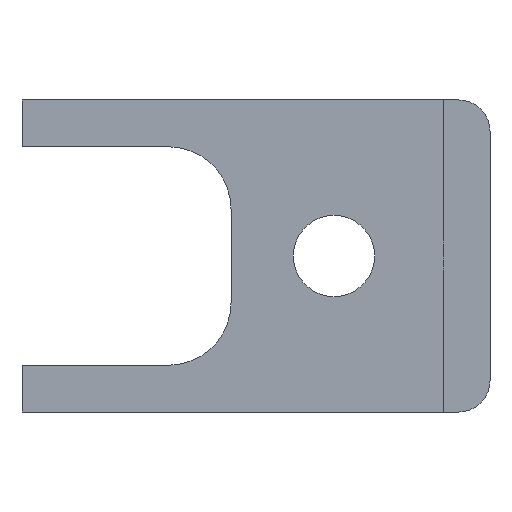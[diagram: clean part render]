
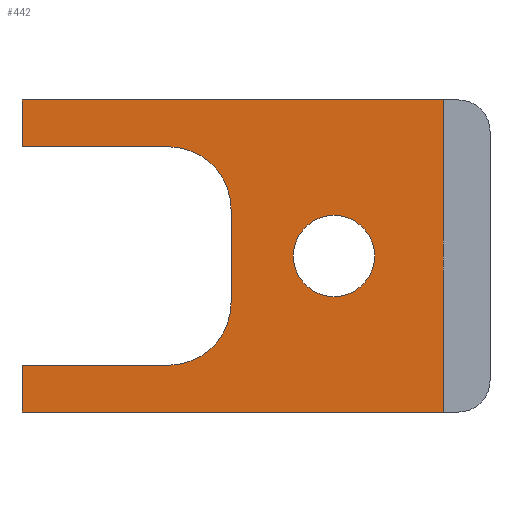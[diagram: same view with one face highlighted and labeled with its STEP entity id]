
A CAD part, front view. The second image highlights one B-rep face of the part: STEP entity #442.
In plain terms, the highlighted planar face has unit normal (0, -1, 0).
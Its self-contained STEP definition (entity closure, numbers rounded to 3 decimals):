
#13 = CARTESIAN_POINT ( 'NONE',  ( 11.3, 1.5, 5. ) ) ;
#20 = CARTESIAN_POINT ( 'NONE',  ( 0., 1.5, 10. ) ) ;
#24 = EDGE_CURVE ( 'NONE', #462, #469, #688, .T. ) ;
#29 = CARTESIAN_POINT ( 'NONE',  ( 4.7, 1.5, 3.5 ) ) ;
#43 = VECTOR ( 'NONE', #368, 1000. ) ;
#45 = LINE ( 'NONE', #95, #43 ) ;
#47 = ORIENTED_EDGE ( 'NONE', *, *, #575, .T. ) ;
#48 = CARTESIAN_POINT ( 'NONE',  ( 13.5, 1.5, 10. ) ) ;
#77 = DIRECTION ( 'NONE',  ( 1., 0., 0. ) ) ;
#81 = DIRECTION ( 'NONE',  ( 0., 0., -1. ) ) ;
#89 = ORIENTED_EDGE ( 'NONE', *, *, #200, .T. ) ;
#94 = VERTEX_POINT ( 'NONE', #641 ) ;
#95 = CARTESIAN_POINT ( 'NONE',  ( 13.5, 1.5, 10. ) ) ;
#96 = VECTOR ( 'NONE', #131, 1000. ) ;
#107 = VERTEX_POINT ( 'NONE', #645 ) ;
#120 = CARTESIAN_POINT ( 'NONE',  ( 0., 1.5, 0. ) ) ;
#129 = DIRECTION ( 'NONE',  ( -1., 0., 0. ) ) ;
#131 = DIRECTION ( 'NONE',  ( 0., 0., -1. ) ) ;
#139 = CIRCLE ( 'NONE', #547, 2. ) ;
#156 = VECTOR ( 'NONE', #324, 1000. ) ;
#164 = VECTOR ( 'NONE', #461, 1000. ) ;
#179 = CARTESIAN_POINT ( 'NONE',  ( 0., 1.5, 8.5 ) ) ;
#181 = DIRECTION ( 'NONE',  ( -1., 0., 0. ) ) ;
#185 = EDGE_CURVE ( 'NONE', #249, #591, #45, .T. ) ;
#187 = EDGE_LOOP ( 'NONE', ( #362, #317 ) ) ;
#190 = CARTESIAN_POINT ( 'NONE',  ( 13.5, 1.5, 0. ) ) ;
#198 = ORIENTED_EDGE ( 'NONE', *, *, #185, .F. ) ;
#199 = LINE ( 'NONE', #490, #156 ) ;
#200 = EDGE_CURVE ( 'NONE', #329, #637, #199, .T. ) ;
#216 = CARTESIAN_POINT ( 'NONE',  ( 0., 1.5, 10. ) ) ;
#229 = CARTESIAN_POINT ( 'NONE',  ( 0., 1.5, 10. ) ) ;
#231 = CIRCLE ( 'NONE', #609, 2. ) ;
#234 = CIRCLE ( 'NONE', #705, 1.3 ) ;
#249 = VERTEX_POINT ( 'NONE', #48 ) ;
#272 = EDGE_CURVE ( 'NONE', #562, #94, #668, .T. ) ;
#289 = CARTESIAN_POINT ( 'NONE',  ( 6.7, 1.5, 10. ) ) ;
#295 = CARTESIAN_POINT ( 'NONE',  ( 6.7, 1.5, 6.5 ) ) ;
#298 = LINE ( 'NONE', #289, #379 ) ;
#304 = ORIENTED_EDGE ( 'NONE', *, *, #24, .T. ) ;
#317 = ORIENTED_EDGE ( 'NONE', *, *, #272, .T. ) ;
#324 = DIRECTION ( 'NONE',  ( 1., 0., 0. ) ) ;
#326 = VECTOR ( 'NONE', #397, 1000. ) ;
#329 = VERTEX_POINT ( 'NONE', #179 ) ;
#333 = FACE_OUTER_BOUND ( 'NONE', #633, .T. ) ;
#344 = LINE ( 'NONE', #572, #393 ) ;
#353 = VERTEX_POINT ( 'NONE', #229 ) ;
#361 = CARTESIAN_POINT ( 'NONE',  ( 4.7, 1.5, 8.5 ) ) ;
#362 = ORIENTED_EDGE ( 'NONE', *, *, #716, .T. ) ;
#363 = DIRECTION ( 'NONE',  ( 0., 1., 0. ) ) ;
#368 = DIRECTION ( 'NONE',  ( 0., 0., -1. ) ) ;
#375 = EDGE_CURVE ( 'NONE', #599, #591, #617, .T. ) ;
#379 = VECTOR ( 'NONE', #81, 1000. ) ;
#382 = ORIENTED_EDGE ( 'NONE', *, *, #537, .T. ) ;
#384 = ORIENTED_EDGE ( 'NONE', *, *, #554, .T. ) ;
#390 = CARTESIAN_POINT ( 'NONE',  ( 0., 1.5, 1.5 ) ) ;
#393 = VECTOR ( 'NONE', #77, 1000. ) ;
#397 = DIRECTION ( 'NONE',  ( 1., 0., 0. ) ) ;
#412 = LINE ( 'NONE', #643, #164 ) ;
#420 = CARTESIAN_POINT ( 'NONE',  ( 10., 1.5, 5. ) ) ;
#439 = VECTOR ( 'NONE', #129, 1000. ) ;
#442 = ADVANCED_FACE ( 'NONE', ( #452, #333 ), #563, .F. ) ;
#452 = FACE_BOUND ( 'NONE', #187, .T. ) ;
#460 = CARTESIAN_POINT ( 'NONE',  ( 0., 1.5, 1.5 ) ) ;
#461 = DIRECTION ( 'NONE',  ( 0., 0., -1. ) ) ;
#462 = VERTEX_POINT ( 'NONE', #498 ) ;
#468 = LINE ( 'NONE', #20, #96 ) ;
#469 = VERTEX_POINT ( 'NONE', #390 ) ;
#471 = DIRECTION ( 'NONE',  ( -1., 0., 0. ) ) ;
#481 = EDGE_CURVE ( 'NONE', #613, #107, #298, .T. ) ;
#490 = CARTESIAN_POINT ( 'NONE',  ( 0., 1.5, 8.5 ) ) ;
#492 = ORIENTED_EDGE ( 'NONE', *, *, #481, .T. ) ;
#498 = CARTESIAN_POINT ( 'NONE',  ( 4.7, 1.5, 1.5 ) ) ;
#503 = EDGE_CURVE ( 'NONE', #353, #329, #468, .T. ) ;
#508 = DIRECTION ( 'NONE',  ( -1., 0., 0. ) ) ;
#519 = DIRECTION ( 'NONE',  ( 0., 1., 0. ) ) ;
#537 = EDGE_CURVE ( 'NONE', #469, #599, #412, .T. ) ;
#546 = AXIS2_PLACEMENT_3D ( 'NONE', #216, #662, #614 ) ;
#547 = AXIS2_PLACEMENT_3D ( 'NONE', #686, #519, #508 ) ;
#554 = EDGE_CURVE ( 'NONE', #637, #613, #139, .T. ) ;
#562 = VERTEX_POINT ( 'NONE', #13 ) ;
#563 = PLANE ( 'NONE',  #546 ) ;
#572 = CARTESIAN_POINT ( 'NONE',  ( 0., 1.5, 10. ) ) ;
#575 = EDGE_CURVE ( 'NONE', #107, #462, #231, .T. ) ;
#591 = VERTEX_POINT ( 'NONE', #190 ) ;
#598 = DIRECTION ( 'NONE',  ( 0., 1., 0. ) ) ;
#599 = VERTEX_POINT ( 'NONE', #694 ) ;
#608 = CARTESIAN_POINT ( 'NONE',  ( 10., 1.5, 5. ) ) ;
#609 = AXIS2_PLACEMENT_3D ( 'NONE', #29, #636, #181 ) ;
#611 = EDGE_CURVE ( 'NONE', #353, #249, #344, .T. ) ;
#613 = VERTEX_POINT ( 'NONE', #295 ) ;
#614 = DIRECTION ( 'NONE',  ( -1., 0., 0. ) ) ;
#616 = ORIENTED_EDGE ( 'NONE', *, *, #503, .T. ) ;
#617 = LINE ( 'NONE', #120, #326 ) ;
#633 = EDGE_LOOP ( 'NONE', ( #47, #304, #382, #691, #198, #658, #616, #89, #384, #492 ) ) ;
#636 = DIRECTION ( 'NONE',  ( 0., 1., 0. ) ) ;
#637 = VERTEX_POINT ( 'NONE', #361 ) ;
#641 = CARTESIAN_POINT ( 'NONE',  ( 8.7, 1.5, 5. ) ) ;
#643 = CARTESIAN_POINT ( 'NONE',  ( 0., 1.5, 10. ) ) ;
#645 = CARTESIAN_POINT ( 'NONE',  ( 6.7, 1.5, 3.5 ) ) ;
#649 = DIRECTION ( 'NONE',  ( -1., 0., 0. ) ) ;
#658 = ORIENTED_EDGE ( 'NONE', *, *, #611, .F. ) ;
#662 = DIRECTION ( 'NONE',  ( 0., 1., 0. ) ) ;
#668 = CIRCLE ( 'NONE', #678, 1.3 ) ;
#678 = AXIS2_PLACEMENT_3D ( 'NONE', #608, #363, #649 ) ;
#686 = CARTESIAN_POINT ( 'NONE',  ( 4.7, 1.5, 6.5 ) ) ;
#688 = LINE ( 'NONE', #460, #439 ) ;
#691 = ORIENTED_EDGE ( 'NONE', *, *, #375, .T. ) ;
#694 = CARTESIAN_POINT ( 'NONE',  ( 0., 1.5, 0. ) ) ;
#705 = AXIS2_PLACEMENT_3D ( 'NONE', #420, #598, #471 ) ;
#716 = EDGE_CURVE ( 'NONE', #94, #562, #234, .T. ) ;
